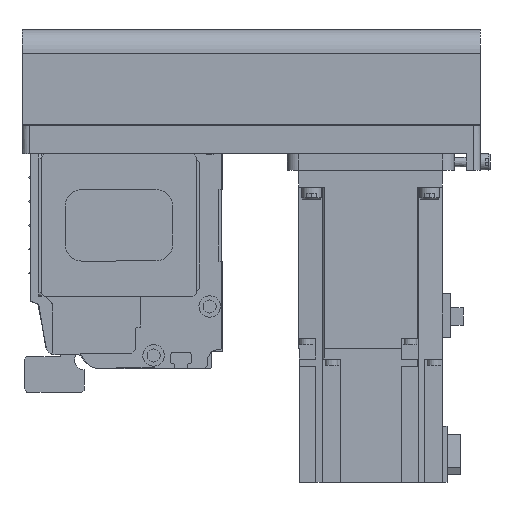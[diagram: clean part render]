
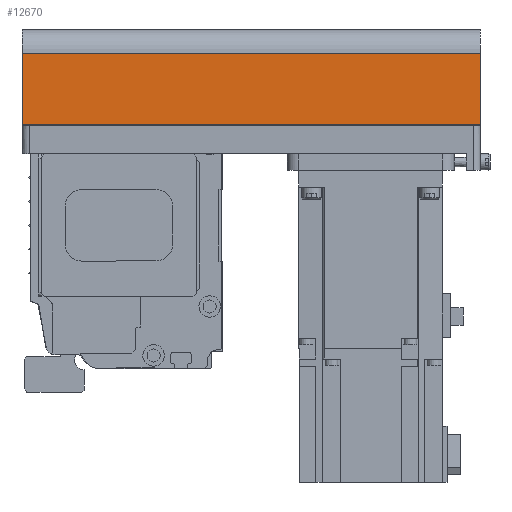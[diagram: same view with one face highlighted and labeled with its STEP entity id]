
A CAD part, left-side view. The second image highlights one B-rep face of the part: STEP entity #12670.
In plain terms, the highlighted planar face has unit normal (-1, 0, 0) as drawn and (0, -1, 0) by its records, which use the part's own axes.
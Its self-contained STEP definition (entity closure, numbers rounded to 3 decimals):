
#2279=ORIENTED_EDGE('',*,*,#5127,.F.);
#2280=ORIENTED_EDGE('',*,*,#5093,.F.);
#2281=ORIENTED_EDGE('',*,*,#5116,.T.);
#2282=ORIENTED_EDGE('',*,*,#5160,.T.);
#5093=EDGE_CURVE('',#6683,#6684,#7959,.T.);
#5116=EDGE_CURVE('',#6683,#6702,#7978,.T.);
#5127=EDGE_CURVE('',#6684,#6710,#7987,.T.);
#5160=EDGE_CURVE('',#6702,#6710,#8000,.T.);
#6683=VERTEX_POINT('',#19777);
#6684=VERTEX_POINT('',#19779);
#6702=VERTEX_POINT('',#19822);
#6710=VERTEX_POINT('',#19846);
#7959=LINE('',#19778,#9187);
#7978=LINE('',#19823,#9206);
#7987=LINE('',#19845,#9215);
#8000=LINE('',#19903,#9228);
#9187=VECTOR('',#15872,1000.);
#9206=VECTOR('',#15905,1000.);
#9215=VECTOR('',#15926,1000.);
#9228=VECTOR('',#16011,1000.);
#10284=EDGE_LOOP('',(#2279,#2280,#2281,#2282));
#11274=FACE_BOUND('',#10284,.T.);
#12095=PLANE('',#13665);
#12670=ADVANCED_FACE('',(#11274),#12095,.T.);
#13665=AXIS2_PLACEMENT_3D('',#19904,#16012,#16013);
#15872=DIRECTION('',(1.,0.,0.));
#15905=DIRECTION('',(0.,0.,-1.));
#15926=DIRECTION('',(0.,0.,-1.));
#16011=DIRECTION('',(1.,0.,0.));
#16012=DIRECTION('',(0.,-1.,0.));
#16013=DIRECTION('',(0.,0.,-1.));
#19777=CARTESIAN_POINT('',(-192.,-40.,-12.1));
#19778=CARTESIAN_POINT('',(-192.,-40.,-12.1));
#19779=CARTESIAN_POINT('',(0.,-40.,-12.1));
#19822=CARTESIAN_POINT('',(-192.,-40.,-42.));
#19823=CARTESIAN_POINT('',(-192.,-40.,-12.1));
#19845=CARTESIAN_POINT('',(0.,-40.,-12.1));
#19846=CARTESIAN_POINT('',(0.,-40.,-42.));
#19903=CARTESIAN_POINT('',(-192.,-40.,-42.));
#19904=CARTESIAN_POINT('',(-192.,-40.,-12.1));
